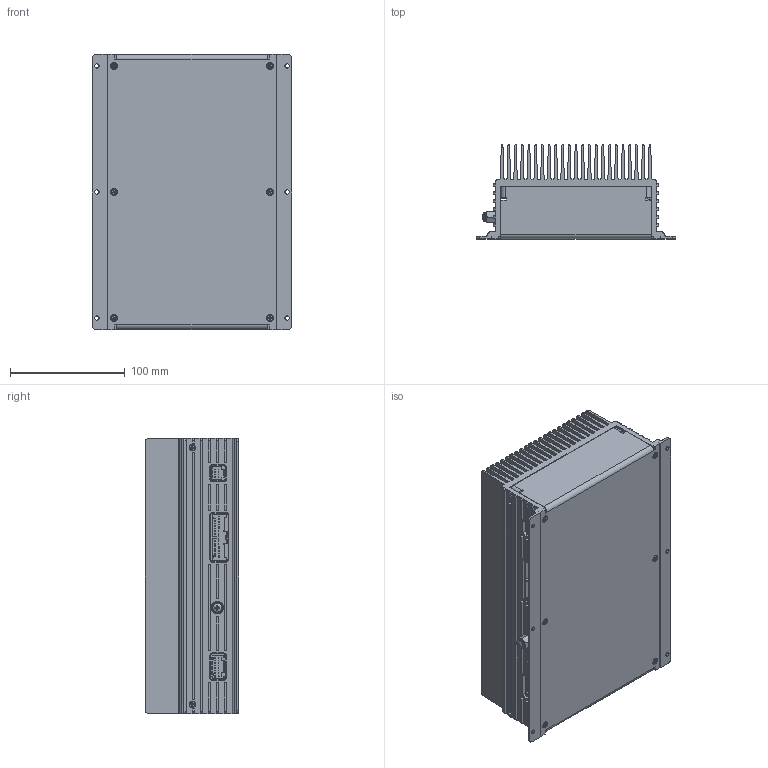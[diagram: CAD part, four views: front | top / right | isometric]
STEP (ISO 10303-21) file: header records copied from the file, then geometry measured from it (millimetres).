
FILE_DESCRIPTION((''),'2;1');
FILE_NAME('E:\CADTEKK DESIGNS\CLIENT''S PROJECTS\Ewert\PROJECTS\Outgoing Generics\BMS.stp','2011-04-20T10:20:30',('Mike Folg'),(''),'Autodesk Inventor 2012','Autodesk Inventor 2012','');
FILE_SCHEMA(('AUTOMOTIVE_DESIGN { 1 0 10303 214 1 1 1 1 }'));
Length unit declared in the file: inch
Products named in the file (1): BMS
Bounding box: 174 x 82 x 240 mm (x, y, z)
Volume: 799707.1 mm3; surface area: 584701.6 mm2
Topology: 7 solids, 13 shells, 6042 faces, 16283 edges, 10663 vertices
Faces by surface type: plane 4272, cylinder 1320, cone 215, bspline 106, sphere 69, torus 60
Full cylindrical faces by diameter (mm): 2.156 x16, 2.387 x12, 2.4 x14, 2.845 x12, 3.264 x10, 3.797 x6, 4.166 x1, 8.179 x1, 11 x1
Entity records: 198092 total; most frequent: CARTESIAN_POINT 41178, ORIENTED_EDGE 31998, DIRECTION 29844, EDGE_CURVE 15999, VECTOR 12388, LINE 12388, VERTEX_POINT 10565, AXIS2_PLACEMENT_3D 8728
